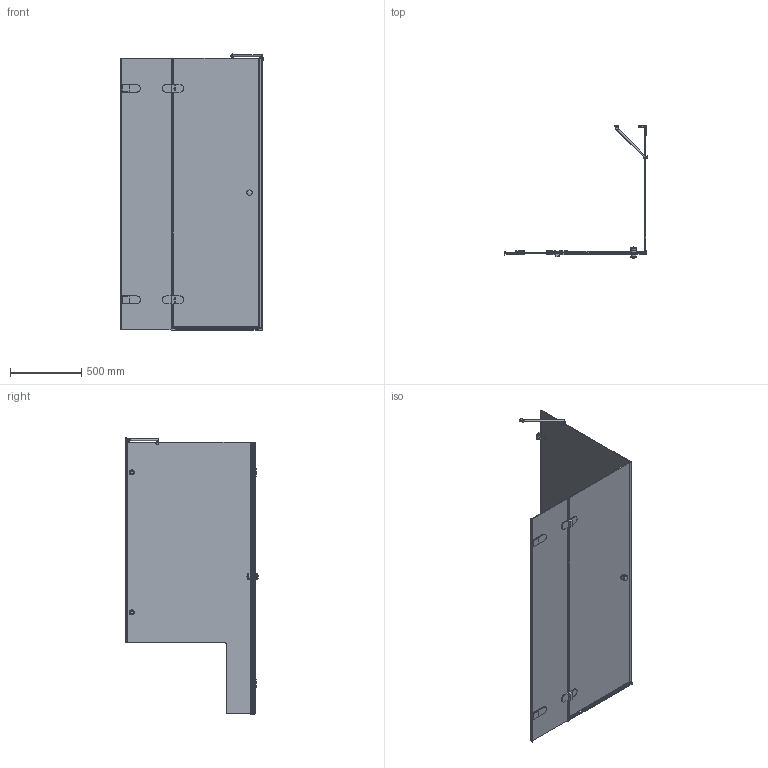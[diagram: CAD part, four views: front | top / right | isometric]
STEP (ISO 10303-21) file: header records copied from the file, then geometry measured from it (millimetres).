
FILE_DESCRIPTION(/* description */ (''),/* implementation_level */ '2;1');
FILE_NAME(/* name */ 'E:\Работа\Сергей\Душевые кабинки\! Работа\LUX SQUARE GK-003V1-2522\LUX SQUARE GK-003V1-2522 левая модель\LUX SQUARE GK-003V1-2522 ЛЕВАЯ-3D.stp',/* time_stamp */ '2017-06-05T21:23:15+03:00',/* author */ ('PC'),/* organization */ (''),/* preprocessor_version */ 'ST-DEVELOPER v15.2',/* originating_system */ 'Autodesk Inventor 2014',/* authorisation */ '');
FILE_SCHEMA (('AUTOMOTIVE_DESIGN { 1 0 10303 214 3 1 1 }'));
Length unit declared in the file: millimetre
Products named in the file (1): LUX SQUARE GK-003V1-2522 ЛЕВАЯ-
3D
Bounding box: 1000.36 x 928 x 1931.49 mm (x, y, z)
Volume: 20140962.8 mm3; surface area: 6906100 mm2
Topology: 4 solids, 4 shells, 687 faces, 1692 edges, 1056 vertices
Faces by surface type: plane 480, cylinder 171, torus 18, bspline 8, sphere 8, cone 2
Full cylindrical faces by diameter (mm): 12 x1, 15 x1, 20 x2, 26 x1, 30 x2, 35 x2, 38 x4, 40 x2
Entity records: 20968 total; most frequent: CARTESIAN_POINT 4025, DIRECTION 3354, ORIENTED_EDGE 3306, EDGE_CURVE 1653, LINE 1216, VECTOR 1216, AXIS2_PLACEMENT_3D 1069, VERTEX_POINT 1044
